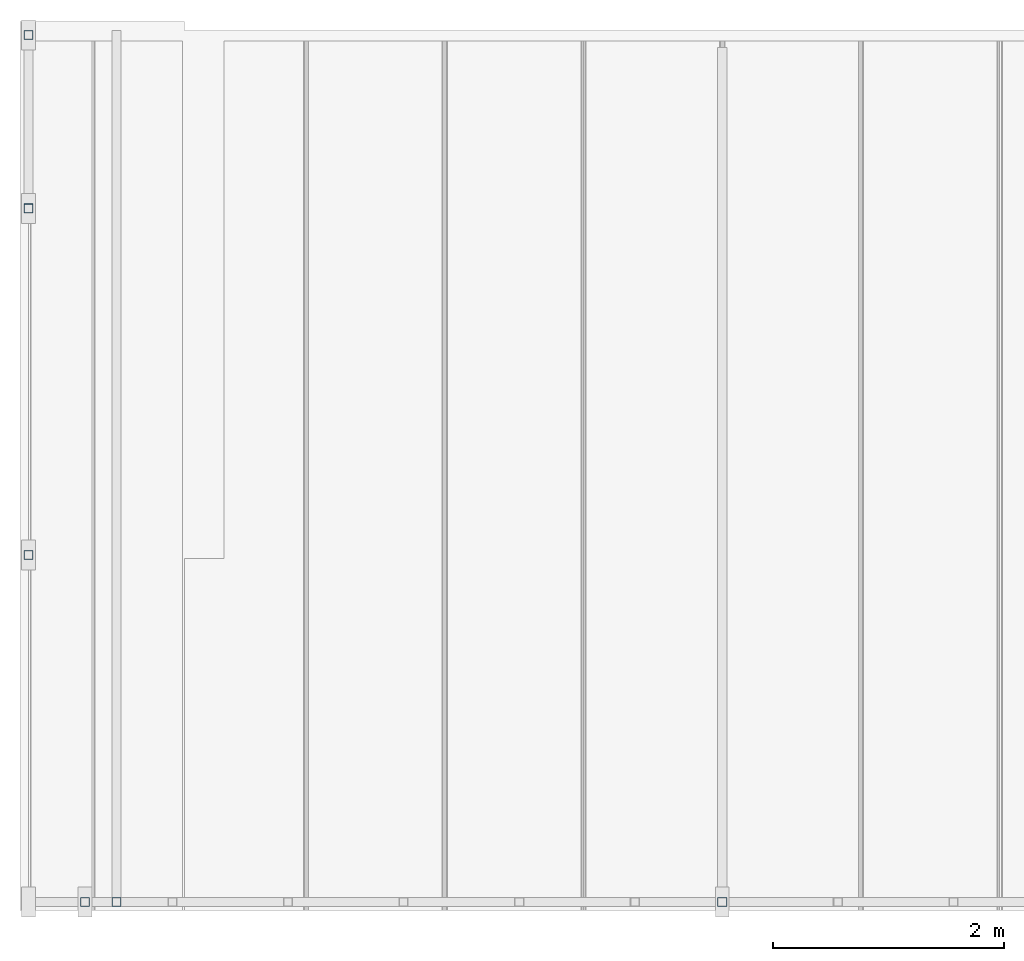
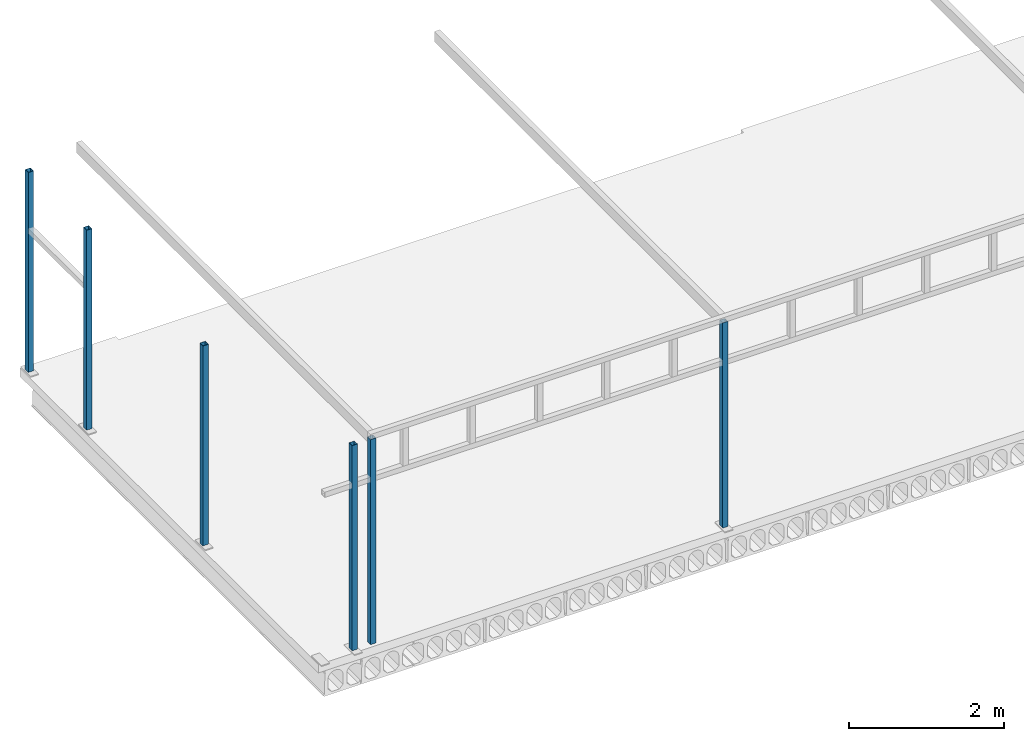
# One storey, part 1 of 20: 6 columns.
"""IFC2X3 building model written with IfcOpenShell, lengths in millimetres."""

from ifc_helpers import new_model, entity, si_unit, converted_unit, derived_unit, direction, frame, origin_with_axes, place, context, subcontext, project, spatial, faceted_brep, material, type_object, element, save


model = new_model("IFC2X3")

# Units and contexts
model_context = context("Model", 3, precision=0.01, world=frame((0.0, 4.29681676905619e-09, 0.0)), true_north=direction((4.01073788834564e-13, 1.0)))
plan_context = context("Plan", 3, precision=0.01, world=frame((0.0, 4.29681676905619e-09, 0.0)), true_north=direction((4.01073788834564e-13, 1.0)))
body_context = subcontext(model_context, "Body", "Model", "MODEL_VIEW")
ifc_project = project(units=[converted_unit("PLANEANGLEUNIT", "DEGREE", entity("IfcPositiveLengthMeasure", 0.0174532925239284), si_unit("PLANEANGLEUNIT", "RADIAN"), dimensions=[0, 0, 0, 0, 0, 0, 0]), si_unit("AREAUNIT", "SQUARE_METRE"), si_unit("LENGTHUNIT", "METRE", prefix="MILLI"), si_unit("MASSUNIT", "GRAM", prefix="KILO"), si_unit("POWERUNIT", "WATT"), si_unit("PRESSUREUNIT", "PASCAL", prefix="KILO"), si_unit("FORCEUNIT", "NEWTON", prefix="KILO"), si_unit("ELECTRICVOLTAGEUNIT", "VOLT"), si_unit("ELECTRICCURRENTUNIT", "AMPERE"), si_unit("THERMODYNAMICTEMPERATUREUNIT", "DEGREE_CELSIUS"), si_unit("TIMEUNIT", "SECOND"), si_unit("VOLUMEUNIT", "CUBIC_METRE"), derived_unit("LINEARVELOCITYUNIT", [(si_unit("LENGTHUNIT", "METRE"), 1), (si_unit("TIMEUNIT", "SECOND"), -1)]), derived_unit("VOLUMETRICFLOWRATEUNIT", [(si_unit("VOLUMEUNIT", "CUBIC_METRE"), 1), (si_unit("TIMEUNIT", "SECOND"), -1)]), derived_unit("THERMALTRANSMITTANCEUNIT", [(si_unit("POWERUNIT", "WATT"), 1), (si_unit("THERMODYNAMICTEMPERATUREUNIT", "KELVIN"), -1), (si_unit("AREAUNIT", "SQUARE_METRE"), -1)]), derived_unit("SOUNDPRESSUREUNIT", [(si_unit("PRESSUREUNIT", "PASCAL"), 1)])], contexts=[model_context, plan_context])

# Site, building, storey
site_placement = place(None, frame((0.0, -4.29681676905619e-09, 0.0), z_axis=(0.0, 0.0, 1.0), x_axis=(1.0, 0.0, 0.0)))
site = spatial("IfcSite", under=ifc_project, at=site_placement, Name="Gardermoen", CompositionType="ELEMENT")
building_placement = place(site_placement, frame((0.0, 4.29681676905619e-09, 0.0), z_axis=(0.0, 0.0, 1.0), x_axis=(1.0, 0.0, 0.0)))
building = spatial("IfcBuilding", under=site, at=building_placement, Name="TS", CompositionType="ELEMENT")
storey_placement = place(building_placement, origin_with_axes())
storey = spatial("IfcBuildingStorey", under=building, at=storey_placement, Name="D", CompositionType="ELEMENT", Elevation=0.0)

# Columns
ifc_material = material(Name="STEEL/S355")
column_type = type_object("IfcColumnType", Name="RHS80*5", PredefinedType="NOTDEFINED")
for number, where, z_axis, x_axis in (
    (1, (594999.994834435, 405309.991078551, 203970.0), (-0.999999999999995, -9.99999902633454e-08, 6.46199937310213e-13), (0.0, 6.46200000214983e-06, 0.999999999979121)),
    (2, (594999.994834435, 403810.991078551, 203970.0), (-0.999999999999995, -9.99999902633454e-08, 6.46199937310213e-13), (0.0, 6.46200000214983e-06, 0.999999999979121)),
    (3, (594999.994834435, 400810.991078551, 203970.0), (-0.999999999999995, -9.99999902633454e-08, 6.46199937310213e-13), (0.0, 6.46200000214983e-06, 0.999999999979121)),
):
    element("IfcColumn", number, at=place(storey_placement, frame(where, z_axis=z_axis, x_axis=x_axis)), inside=storey, type_object=column_type, material=ifc_material, Name="STÅLSØYLE", ObjectType="RHS80*5", context=body_context, shape_type="Brep", body=[
        faceted_brep([(-25.0000153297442, 35.0000000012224, -35.0), (-24.9999846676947, -35.0000000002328, -35.0), (3119.99906413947, -35.0000000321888, -35.0), (3119.9990641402, 34.9999999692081, -35.0), (-24.9999846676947, -35.0000000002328, 35.0), (3119.99906413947, -35.0000000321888, 35.0), (-25.0000153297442, 35.0000000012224, 35.0), (3119.9990641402, 34.9999999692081, 35.0), (-25.0000175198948, 40.0000000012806, -40.0), (-25.0000175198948, 40.0000000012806, 40.0), (3119.99906414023, 39.9999999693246, 40.0), (3119.99906414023, 39.9999999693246, -40.0), (-24.9999824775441, -40.0000000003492, 40.0), (3119.99906413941, -40.0000000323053, 40.0), (-24.9999824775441, -40.0000000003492, -40.0), (3119.99906413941, -40.0000000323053, -40.0)], [[[0, 1, 2, 3]], [[1, 4, 5, 2]], [[4, 6, 7, 5]], [[6, 0, 3, 7]], [[8, 9, 10, 11]], [[9, 12, 13, 10]], [[12, 14, 15, 13]], [[14, 8, 11, 15]], [[13, 15, 11, 10], [5, 7, 3, 2]], [[14, 12, 9, 8], [6, 4, 1, 0]]]),
    ])
for number, where, z_axis, x_axis in (
    (4, (595486.994834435, 397810.991078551, 203970.0), (-0.999999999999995, -9.99999902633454e-08, 6.46199937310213e-13), (0.0, 6.46200000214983e-06, 0.999999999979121)),
    (5, (600999.994834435, 397810.991078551, 203970.0), (-0.999999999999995, -9.99999902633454e-08, 6.46199937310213e-13), (0.0, 6.46200000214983e-06, 0.999999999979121)),
    (6, (595760.994834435, 397810.991078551, 203970.0), (-0.999999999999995, -9.99999902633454e-08, 6.46199937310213e-13), (0.0, 6.46200000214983e-06, 0.999999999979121)),
):
    element("IfcColumn", number, at=place(storey_placement, frame(where, z_axis=z_axis, x_axis=x_axis)), inside=storey, type_object=column_type, material=ifc_material, Name="STÅLSØYLE", ObjectType="RHS80*5", context=body_context, shape_type="Brep", body=[
        faceted_brep([(-25.0000153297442, 35.0000000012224, -35.0), (-24.9999846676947, -35.0000000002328, -35.0), (3199.99968006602, -35.0000000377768, -35.0), (3199.99968006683, 34.999999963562, -35.0), (-24.9999846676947, -35.0000000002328, 35.0), (3199.99968006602, -35.0000000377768, 35.0), (-25.0000153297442, 35.0000000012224, 35.0), (3199.99968006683, 34.999999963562, 35.0), (-25.0000175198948, 40.0000000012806, -40.0), (-25.0000175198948, 40.0000000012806, 40.0), (3199.99968006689, 39.9999999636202, 40.0), (3199.99968006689, 39.9999999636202, -40.0), (-24.9999824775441, -40.0000000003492, 40.0), (3199.99968006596, -40.0000000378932, 40.0), (-24.9999824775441, -40.0000000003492, -40.0), (3199.99968006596, -40.0000000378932, -40.0)], [[[0, 1, 2, 3]], [[1, 4, 5, 2]], [[4, 6, 7, 5]], [[6, 0, 3, 7]], [[8, 9, 10, 11]], [[9, 12, 13, 10]], [[12, 14, 15, 13]], [[14, 8, 11, 15]], [[13, 15, 11, 10], [5, 7, 3, 2]], [[14, 12, 9, 8], [6, 4, 1, 0]]]),
    ])

save(model, "model.ifc")
